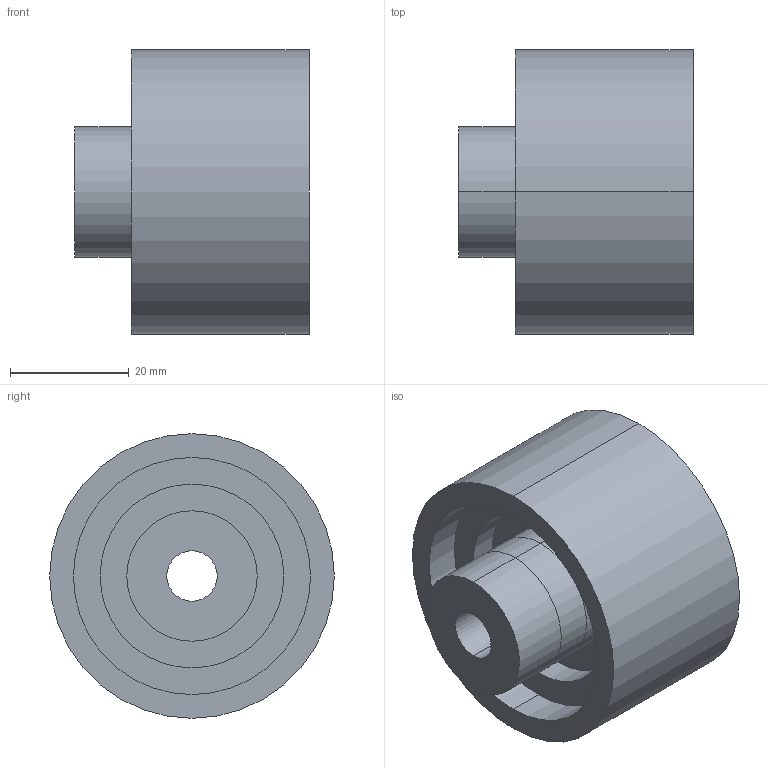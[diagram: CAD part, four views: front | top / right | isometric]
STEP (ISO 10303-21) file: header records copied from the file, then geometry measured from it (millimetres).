
FILE_DESCRIPTION((''),'2;1');
FILE_NAME('RUC4830','2002-12-27T',('Lipro doo'),('Lipro d.o.o.'),'PRO/ENGINEER BY PARAMETRIC TECHNOLOGY CORPORATION, 2001150','PRO/ENGINEER BY PARAMETRIC TECHNOLOGY CORPORATION, 2001150','');
FILE_SCHEMA(('CONFIG_CONTROL_DESIGN'));
Length unit declared in the file: millimetre
Products named in the file (1): RUC4830
Bounding box: 39.5 x 48 x 48 mm (x, y, z)
Volume: 37890.8 mm3; surface area: 12585.6 mm2
Topology: 1 solids, 1 shells, 25 faces, 50 edges, 32 vertices
Faces by surface type: cylinder 18, plane 7
Entity records: 706 total; most frequent: DIRECTION 132, CARTESIAN_POINT 107, ORIENTED_EDGE 100, AXIS2_PLACEMENT_3D 57, EDGE_CURVE 50, VERTEX_POINT 32, EDGE_LOOP 32, CIRCLE 32
